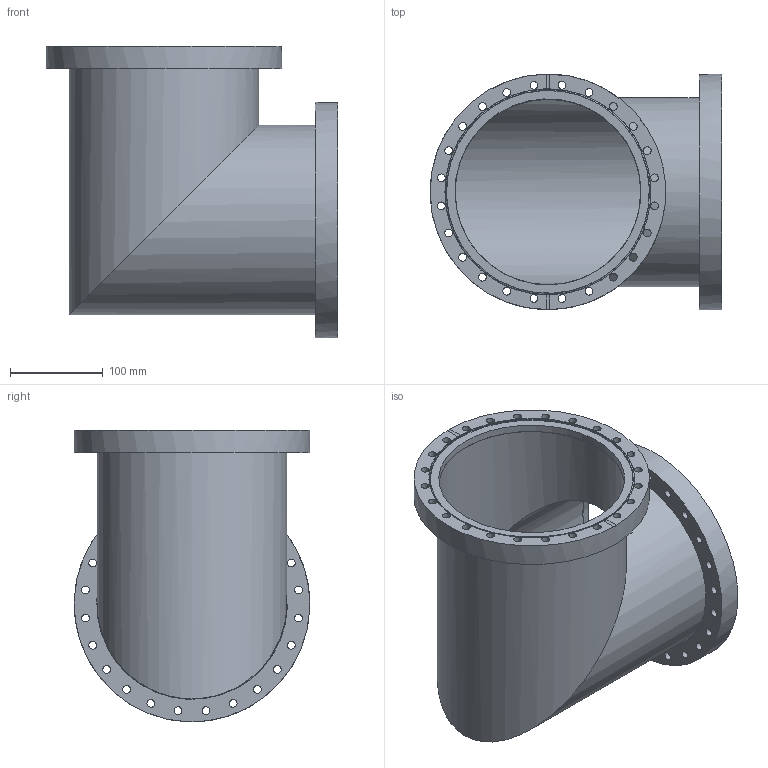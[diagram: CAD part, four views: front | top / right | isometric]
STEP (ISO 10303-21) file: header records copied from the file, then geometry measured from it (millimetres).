
FILE_DESCRIPTION( ( 'Unknown' ), '1' );
FILE_NAME( 'X:/Daten ( aktueller Bestand )/Projekte und Zeichnungen/Solid Edge/STP-Dateien/CF-Teile/7136F4.stp', 'Unknown', ( 'Unknown' ), ( 'Unknown' ), 'PSStep 14.0', 'Unknown', ' ' );
FILE_SCHEMA( ( 'AUTOMOTIVE_DESIGN { 1 0 10303 214 1 1 1 1 }' ) );
Length unit declared in the file: millimetre
Products named in the file (3): Assem1; 7136F-1; 7516F
Assembly tree (3 placements, depth 2):
  Assem1
    7136F-1
    7516F  x2
Bounding box: 314.5 x 254 x 314.5 mm (x, y, z)
Volume: 1260346 mm3; surface area: 627987.7 mm2
Topology: 3 solids, 3 shells, 80 faces, 261 edges, 189 vertices
Faces by surface type: cylinder 64, plane 12, cone 4
Full cylindrical faces by diameter (mm): 8.4 x48, 200 x2, 200.5 x2, 204 x2, 205.5 x2, 222 x2, 254 x2
Entity records: 1720 total; most frequent: CARTESIAN_POINT 259, DIRECTION 230, ORIENTED_EDGE 148, EDGE_LOOP 130, AXIS2_PLACEMENT_3D 113, FACE_OUTER_BOUND 75, EDGE_CURVE 74, VERTEX_POINT 70
